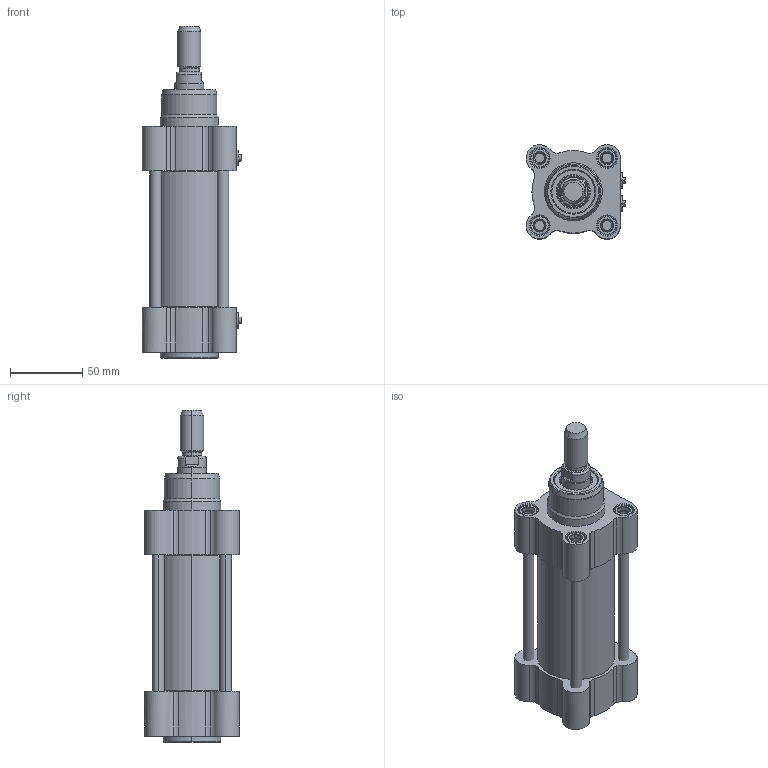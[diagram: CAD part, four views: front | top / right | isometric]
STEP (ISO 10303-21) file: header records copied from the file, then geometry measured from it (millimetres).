
FILE_DESCRIPTION (( 'STEP AP203' ), '1' );
FILE_NAME ('CTMI50-50.STEP', '2020-03-26T19:16:37', ( '' ), ( '' ), 'SwSTEP 2.0', 'SolidWorks 2019', '' );
FILE_SCHEMA (( 'CONFIG_CONTROL_DESIGN' ));
Length unit declared in the file: millimetre
Products named in the file (1): CTMI50-50
Bounding box: 68.7 x 65 x 229 mm (x, y, z)
Surface area: 116987.2 mm2 (no closed solid volume)
Topology: 0 solids, 26 shells, 733 faces, 1698 edges, 1052 vertices
Faces by surface type: cone 229, cylinder 204, plane 196, torus 88, bspline 16
Entity records: 26997 total; most frequent: CARTESIAN_POINT 11533, ORIENTED_EDGE 3340, DIRECTION 2906, EDGE_CURVE 1698, AXIS2_PLACEMENT_3D 1202, VERTEX_POINT 1052, EDGE_LOOP 806, FACE_OUTER_BOUND 733
